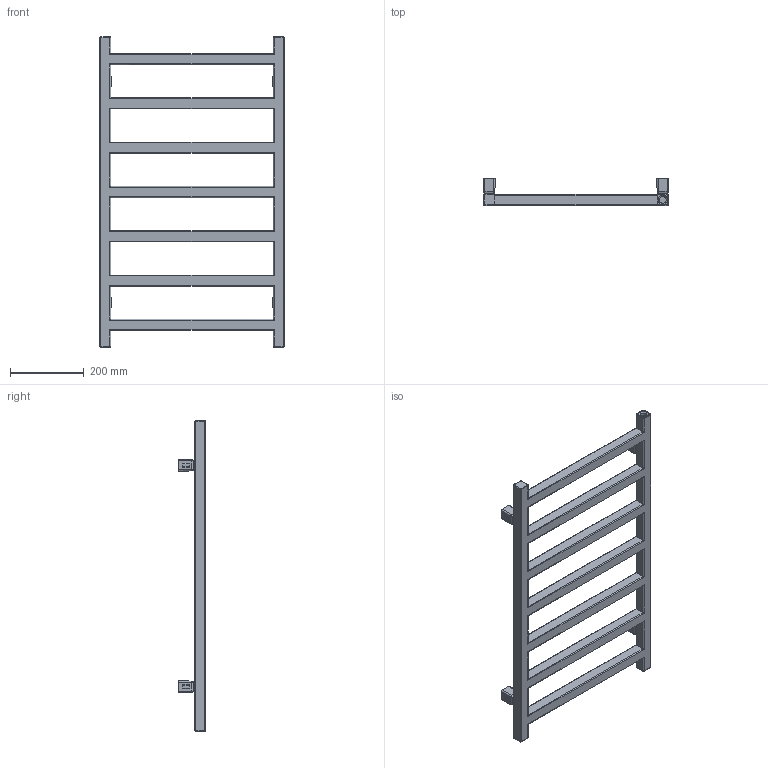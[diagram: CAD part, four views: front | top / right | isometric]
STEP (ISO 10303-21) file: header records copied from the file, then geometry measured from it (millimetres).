
FILE_DESCRIPTION((''),'2;1');
FILE_NAME('Z:\R\G\P\RGP035 - Grzejnik Simple\Work\Inventor\Marketing\AutoCad 3D\G-SI-XX-MK-XX-84-50-SX.stp','2012-07-24T13:39:44',('DawPi'),(''),'Autodesk Inventor 2012','Autodesk Inventor 2012','');
FILE_SCHEMA(('AUTOMOTIVE_DESIGN { 1 0 10303 214 1 1 1 1 }'));
Length unit declared in the file: millimetre
Products named in the file (3): G-SI-XX-MK-XX-84-50-SX; MKT42-00-A v0.2
Assembly tree (5 placements, depth 2):
  G-SI-XX-MK-XX-84-50-SX
    G-SI-XX-MK-XX-84-50-SX
    MKT42-00-A v0.2  x4
Bounding box: 503.98 x 74.5 x 840 mm (x, y, z)
Volume: 4410826.2 mm3; surface area: 578628.4 mm2
Topology: 5 solids, 5 shells, 419 faces, 1031 edges, 653 vertices
Faces by surface type: cylinder 191, plane 157, bspline 60, torus 11
Full cylindrical faces by diameter (mm): 4.134 x4, 10 x4, 12 x4, 18.631 x3
Entity records: 8385 total; most frequent: CARTESIAN_POINT 2989, ORIENTED_EDGE 1094, DIRECTION 1088, EDGE_CURVE 547, AXIS2_PLACEMENT_3D 410, VERTEX_POINT 359, EDGE_LOOP 274, VECTOR 268
